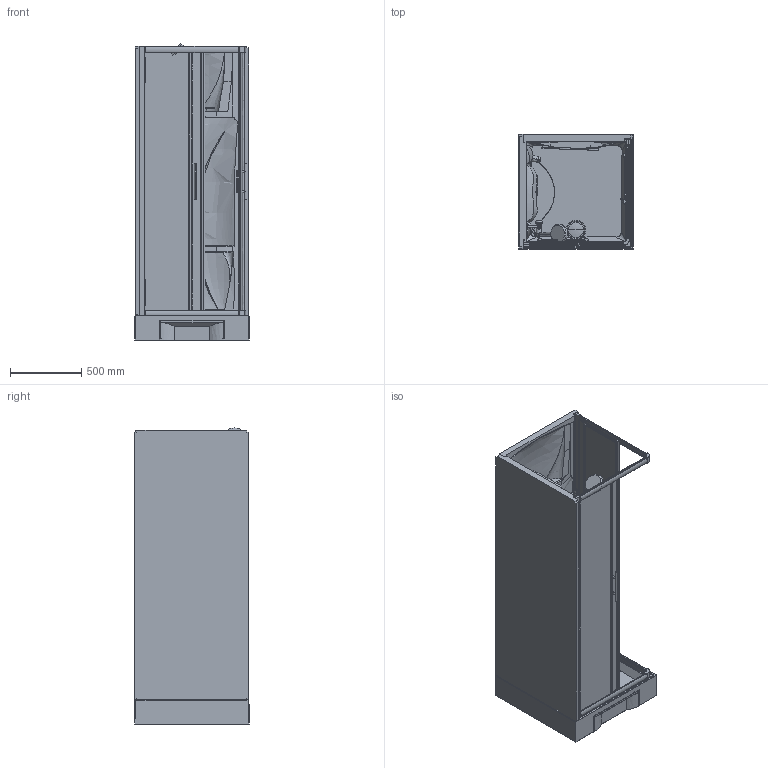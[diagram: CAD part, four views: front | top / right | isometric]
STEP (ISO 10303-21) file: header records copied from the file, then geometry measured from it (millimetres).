
FILE_DESCRIPTION(('STEP AP203'),'2;1');
FILE_NAME('NNH A 80 T.stp','2015-09-04T14:46:46',(''),(''),'2014.1.117','THINKDESIGN','');
FILE_SCHEMA(('CONFIG_CONTROL_DESIGN'));
Bounding box: 804.03 x 807.53 x 2080.01 mm (x, y, z)
Volume: 176001781.3 mm3; surface area: 16305296.4 mm2
Topology: 31 solids, 31 shells, 682 faces, 1682 edges, 1047 vertices
Faces by surface type: bspline 376, plane 259, cylinder 47
Entity records: 65873 total; most frequent: CARTESIAN_POINT 52399, ORIENTED_EDGE 3348, DIRECTION 1712, EDGE_CURVE 1674, VERTEX_POINT 1047, VECTOR 836, LINE 836, EDGE_LOOP 697
